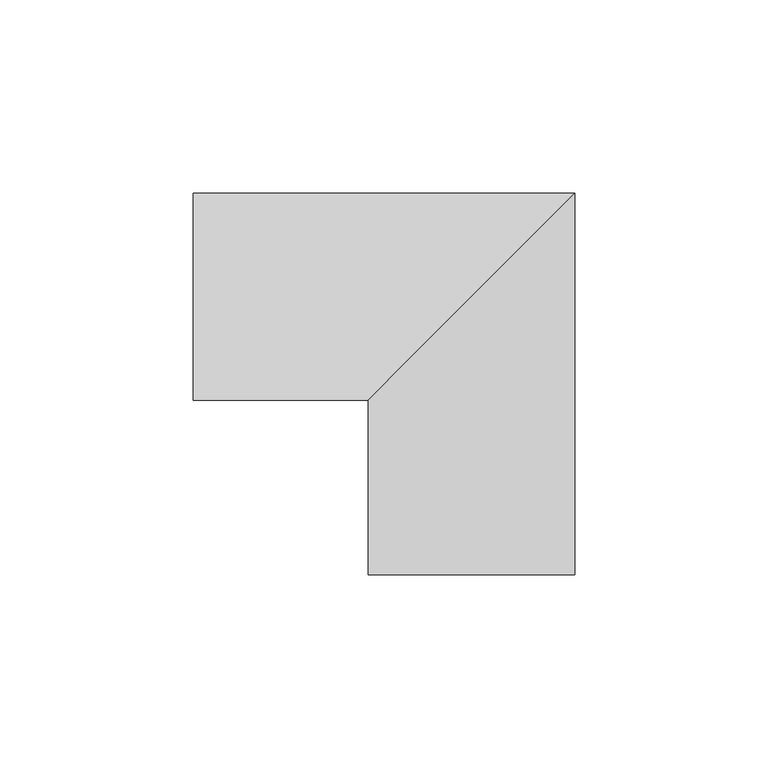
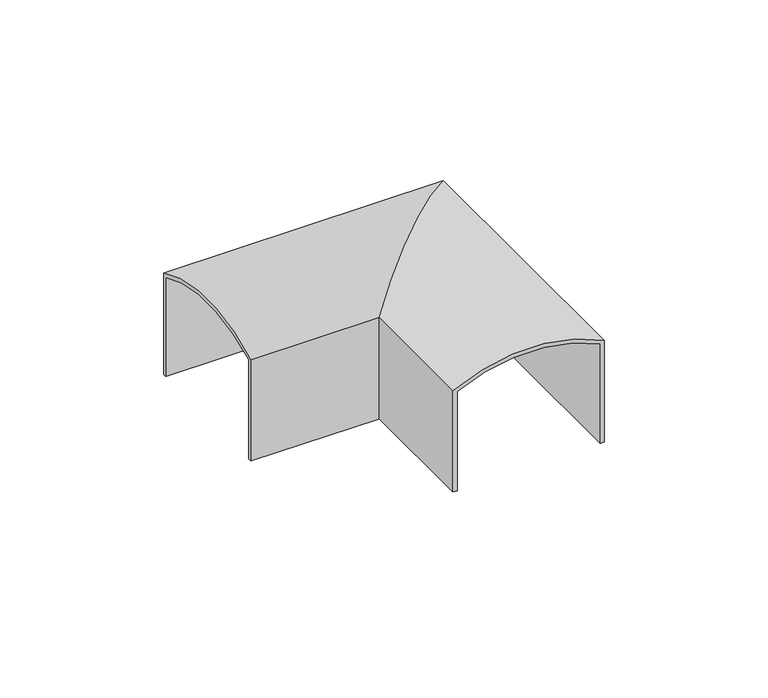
"""IFC4 building model written with IfcOpenShell, lengths in millimetres: proxy geometry, Innore top rail 51x43 corner element : Innore top rail 51x43 element."""

from ifc_helpers import new_model, si_unit, frame, origin, place, context, project, spatial, polyline, circle_curve, ellipse_curve, source, transform, mapped, element, save
from ifc_brep_helpers import plane_surface, cylinder_surface, revolved_surface, advanced_brep


def generic_models_b718ed85(model_context):
    return source(origin(), model_context, "Body", "AdvancedBrep", [
        advanced_brep(
        [(-26.7441608, -71.9513646, -5.1313999), (-26.7441608, -71.9513646, -42.9991934), (-25.2598291, -71.9513646, -42.9991934), (-25.2598291, -71.9513646, -5.8631127), (25.2598291, -71.9513646, -5.8678927), (25.2598291, -71.9513646, -42.9991934), (26.7547089, -71.9513646, -42.9991934), (26.7547089, -71.9513646, -5.1421029), (26.7547089, 26.754154, -42.9991934), (26.7547089, 26.754154, -5.1421029), (25.2598291, 25.2592742, -5.8678927), (25.2598291, 25.2592742, -42.9991934), (-25.2598291, -25.2603841, -5.8631127), (-25.2598291, -25.2603841, -42.9991934), (-26.7441608, -26.7447157, -5.1313999), (-26.7441608, -26.7447157, -42.9991934), (-71.964886, -26.7447157, -5.1313999), (-71.964886, 26.754154, -5.1421029), (-71.964886, 26.754154, -42.9991934), (-71.964886, 25.2592742, -42.9991934), (-71.964886, 25.2592742, -5.8678927), (-71.964886, -25.2603841, -5.8631127), (-71.964886, -25.2603841, -42.9991934), (-71.964886, -26.7447157, -42.9991934)],
        [
            (0, 1),
            (1, 2),
            (2, 3),
            (3, 4, circle_curve(frame((-0.0048689, -71.9513646, -57.3235684), z_axis=(0.0, 1.0, 0.0), x_axis=(1.0, 0.0, 0.0)), 57.3235687)),
            (4, 5),
            (5, 6),
            (6, 7),
            (7, 0, circle_curve(frame((-0.0048689, -71.9513646, -55.8364469), z_axis=(0.0, -1.0, 0.0), x_axis=(1.0, 0.0, 0.0)), 57.3235687)),
            (6, 8),
            (8, 9),
            (9, 7),
            (4, 10),
            (10, 11),
            (11, 5),
            (3, 12),
            (12, 10, ellipse_curve(frame((-0.0048689, -0.0054238, -57.3235684), z_axis=(-0.7071067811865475, 0.7071067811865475, 0.0), x_axis=(0.7071067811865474, 0.7071067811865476, 0.0)), 81.0677682, 57.3235687)),
            (2, 13),
            (13, 12),
            (0, 14),
            (14, 15),
            (15, 1),
            (16, 17, circle_curve(frame((-71.964886, -0.0054238, -55.8364469), z_axis=(-1.0, 0.0, 0.0), x_axis=(0.0, 1.0, 0.0)), 57.3235687)),
            (17, 18),
            (18, 19),
            (19, 20),
            (20, 21, circle_curve(frame((-71.964886, -0.0054238, -57.3235684), z_axis=(1.0, 0.0, 0.0), x_axis=(0.0, 1.0, 0.0)), 57.3235687)),
            (21, 22),
            (22, 23),
            (23, 16),
            (8, 18),
            (17, 9),
            (10, 20),
            (19, 11),
            (12, 21),
            (13, 22),
            (14, 16),
            (23, 15),
            (9, 14, ellipse_curve(frame((-0.0048689, -0.0054238, -55.8364469), z_axis=(0.7071067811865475, -0.7071067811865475, 0.0), x_axis=(-0.7071067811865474, -0.7071067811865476, 0.0)), 81.0677682, 57.3235687)),
        ],
        [
            plane_surface(frame((0.0, -71.9513646, 0.0), z_axis=(0.0, -1.0, 0.0), x_axis=(0.0, 0.0, 1.0))),
            plane_surface(frame((26.7547089, -71.9513646, -5.1421029), z_axis=(1.0, 0.0, 0.0), x_axis=(0.0, 1.0, 0.0))),
            plane_surface(frame((25.2598291, -71.9513646, -42.9991934), z_axis=(-1.0, 0.0, 0.0), x_axis=(0.0, 1.0, 0.0))),
            revolved_surface(polyline([(57.318699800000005, 57.318144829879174, -57.3235684), (57.318699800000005, -71.9513646, -57.3235684)]), (-0.0048689, -71.9513646, -57.3235684), (0.0, 1.0, 0.0)),
            plane_surface(frame((-25.2598291, -71.9513646, -5.8631127), z_axis=(1.0, 0.0, 0.0), x_axis=(0.0, 1.0, 0.0))),
            plane_surface(frame((-26.7441608, -71.9513646, -42.9991934), z_axis=(-1.0, 0.0, 0.0), x_axis=(0.0, 1.0, 0.0))),
            plane_surface(frame((-71.964886, -0.000555, 0.0), z_axis=(-1.0, 0.0, 0.0), x_axis=(0.0, 0.0, 1.0))),
            plane_surface(frame((26.7547089, 26.754154, -5.1421029), z_axis=(0.0, 1.0, 0.0), x_axis=(-1.0, 0.0, 0.0))),
            plane_surface(frame((25.2598291, 25.2592742, -42.9991934), z_axis=(0.0, -1.0, 0.0), x_axis=(-1.0, 0.0, 0.0))),
            revolved_surface(polyline([(-71.964886, 57.3181449, -57.3235684), (57.31869972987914, 57.3181449, -57.3235684)]), (0.0, -0.0054238, -57.3235684), (-1.0, 0.0, 0.0)),
            plane_surface(frame((-25.2598291, -25.2603841, -5.8631127), z_axis=(0.0, 1.0, 0.0), x_axis=(-1.0, 0.0, 0.0))),
            plane_surface(frame((-26.7441608, -26.7447157, -42.9991934), z_axis=(0.0, -1.0, 0.0), x_axis=(-1.0, 0.0, 0.0))),
            cylinder_surface(frame((-0.0048689, -71.9513646, -55.8364469), z_axis=(0.0, -1.0, 0.0), x_axis=(1.0, 0.0, 0.0)), 57.3235687),
            plane_surface(frame((26.7547089, -71.9513646, -42.9991934), z_axis=(0.0, 0.0, -1.0), x_axis=(0.0, 1.0, 0.0))),
            plane_surface(frame((-25.2598291, -71.9513646, -42.9991934), z_axis=(0.0, 0.0, -1.0), x_axis=(0.0, 1.0, 0.0))),
            cylinder_surface(frame((0.0, -0.0054238, -55.8364469), z_axis=(1.0, 0.0, 0.0), x_axis=(0.0, 1.0, 0.0)), 57.3235687),
        ],
        [
            (0, [[1, 2, 3, 4, 5, 6, 7, 8]]),
            (1, [[9, 10, 11, -7]]),
            (2, [[12, 13, 14, -5]]),
            (3, [[15, 16, -12, -4]]),
            (4, [[17, 18, -15, -3]]),
            (5, [[19, 20, 21, -1]]),
            (6, [[22, 23, 24, 25, 26, 27, 28, 29]]),
            (7, [[30, -23, 31, -10]]),
            (8, [[32, -25, 33, -13]]),
            (9, [[34, -26, -32, -16]]),
            (10, [[35, -27, -34, -18]]),
            (11, [[36, -29, 37, -20]]),
            (12, [[-11, 38, -19, -8]]),
            (13, [[-14, -33, -24, -30, -9, -6]]),
            (14, [[-21, -37, -28, -35, -17, -2]]),
            (15, [[-31, -22, -36, -38]]),
        ],
    ),
    ])


if __name__ == "__main__":
    model = new_model("IFC4")
    model_context = context("Model", 3, world=origin())
    ifc_project = project(units=[si_unit("LENGTHUNIT", "METRE", prefix="MILLI")], contexts=[model_context])
    site = spatial("IfcSite", under=ifc_project)
    building = spatial("IfcBuilding", under=site)
    placement = place(None, origin())
    generic_models_shape = generic_models_b718ed85(model_context)
    element("IfcBuildingElementProxy", 1, Name="Innore top rail 51x43 corner element : Innore top rail 51x43 element", ObjectType="Innore top rail 51x43 corner element : Innore top rail 51x43 element", at=placement, inside=building, context=model_context, shape_type="MappedRepresentation", body=[
        mapped(generic_models_shape, transform((0.0, 0.0, 0.0), x_axis=(1.0, 0.0, 0.0), y_axis=(0.0, 1.0, 0.0), z_axis=(0.0, 0.0, 1.0))),
    ])
    save(model, "model.ifc")
